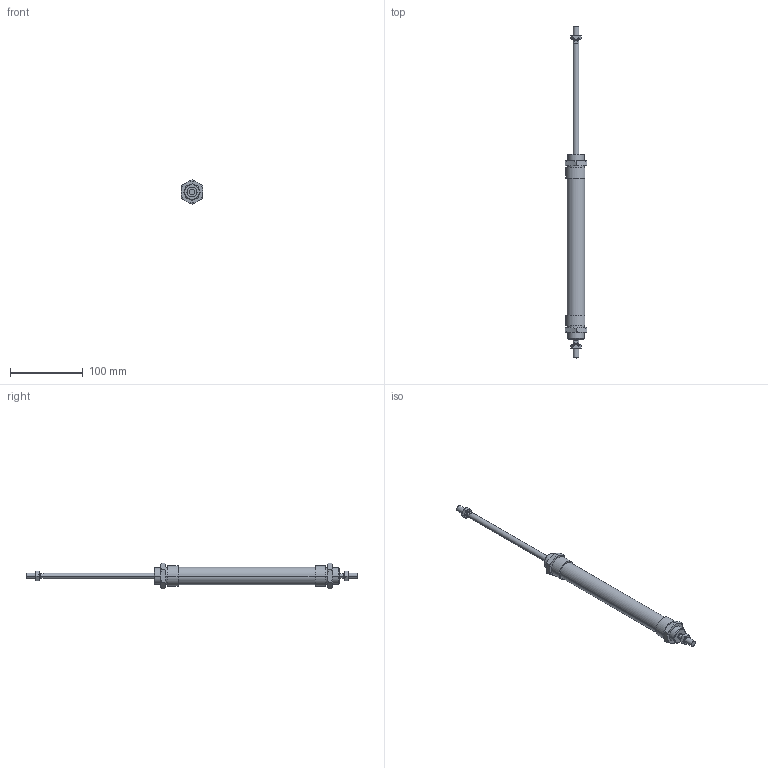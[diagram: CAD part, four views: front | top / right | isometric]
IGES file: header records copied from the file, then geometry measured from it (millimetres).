
Global section: file name: No Iges File Name specified; native system: AutoDesk Inventor R6.0; preprocessor: AutoDesk Inventor Iges Exporter R6.0; author: No Author specified; organization: No Organization specified; date: 20030403.072326; units: millimetre
Bounding box: 30 x 456 x 34.64 mm (x, y, z)
Volume: 132817.7 mm3; surface area: 43803.6 mm2
Topology: 6 solids, 6 shells, 186 faces, 414 edges, 244 vertices
Faces by surface type: cone 68, plane 60, bspline 32, cylinder 20, revolution 6
